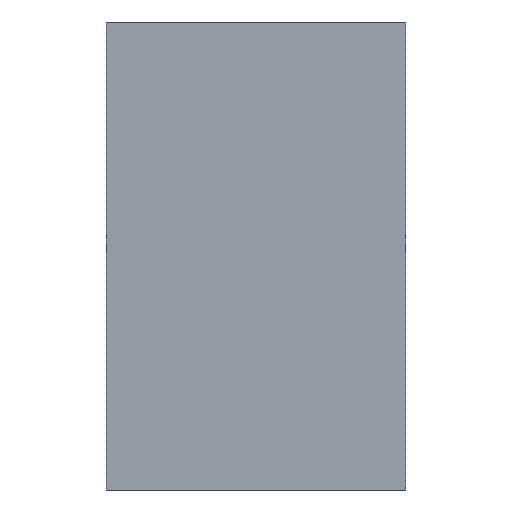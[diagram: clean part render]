
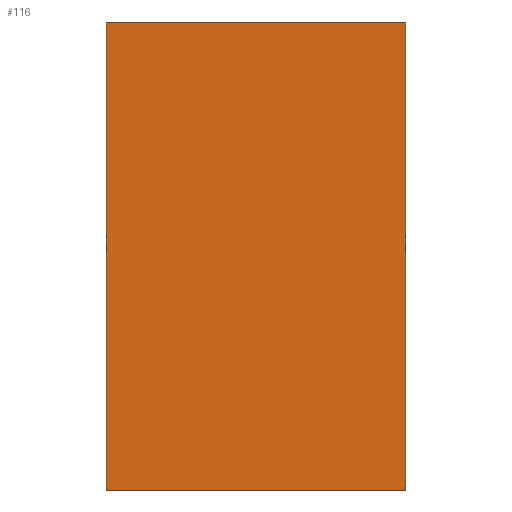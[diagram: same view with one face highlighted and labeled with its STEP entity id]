
A CAD part, left-side view. The second image highlights one B-rep face of the part: STEP entity #116.
In plain terms, the highlighted planar face has unit normal (-1, 0, 0).
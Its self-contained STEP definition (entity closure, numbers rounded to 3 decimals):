
#116=ADVANCED_FACE('',(#266),#268,.T.);
#266=FACE_BOUND('',#267,.T.);
#267=EDGE_LOOP('',(#377,#378,#379,#380));
#268=PLANE('',#269);
#269=AXIS2_PLACEMENT_3D('',#270,#271,#272);
#270=CARTESIAN_POINT('',(-82.,8.,0.));
#271=DIRECTION('',(-1.,0.,0.));
#272=DIRECTION('',(0.,-1.,0.));
#377=ORIENTED_EDGE('',*,*,#422,.T.);
#378=ORIENTED_EDGE('',*,*,#408,.T.);
#379=ORIENTED_EDGE('',*,*,#432,.F.);
#380=ORIENTED_EDGE('',*,*,#436,.F.);
#408=EDGE_CURVE('',#439,#444,#446,.T.);
#422=EDGE_CURVE('',#472,#439,#473,.T.);
#432=EDGE_CURVE('',#488,#444,#490,.T.);
#436=EDGE_CURVE('',#472,#488,#496,.T.);
#439=VERTEX_POINT('',#499);
#444=VERTEX_POINT('',#508);
#446=LINE('',#512,#513);
#472=VERTEX_POINT('',#572);
#473=LINE('',#573,#574);
#488=VERTEX_POINT('',#608);
#490=LINE('',#612,#613);
#496=LINE('',#628,#629);
#499=CARTESIAN_POINT('',(-82.,-8.,0.));
#508=CARTESIAN_POINT('',(-82.,-8.,25.));
#512=CARTESIAN_POINT('',(-82.,-8.,0.));
#513=VECTOR('',#514,1.);
#514=DIRECTION('',(0.,0.,1.));
#572=CARTESIAN_POINT('',(-82.,8.,0.));
#573=CARTESIAN_POINT('',(-82.,8.,0.));
#574=VECTOR('',#575,1.);
#575=DIRECTION('',(0.,-1.,0.));
#608=CARTESIAN_POINT('',(-82.,8.,25.));
#612=CARTESIAN_POINT('',(-82.,8.,25.));
#613=VECTOR('',#614,1.);
#614=DIRECTION('',(0.,-1.,0.));
#628=CARTESIAN_POINT('',(-82.,8.,0.));
#629=VECTOR('',#630,1.);
#630=DIRECTION('',(0.,0.,1.));
